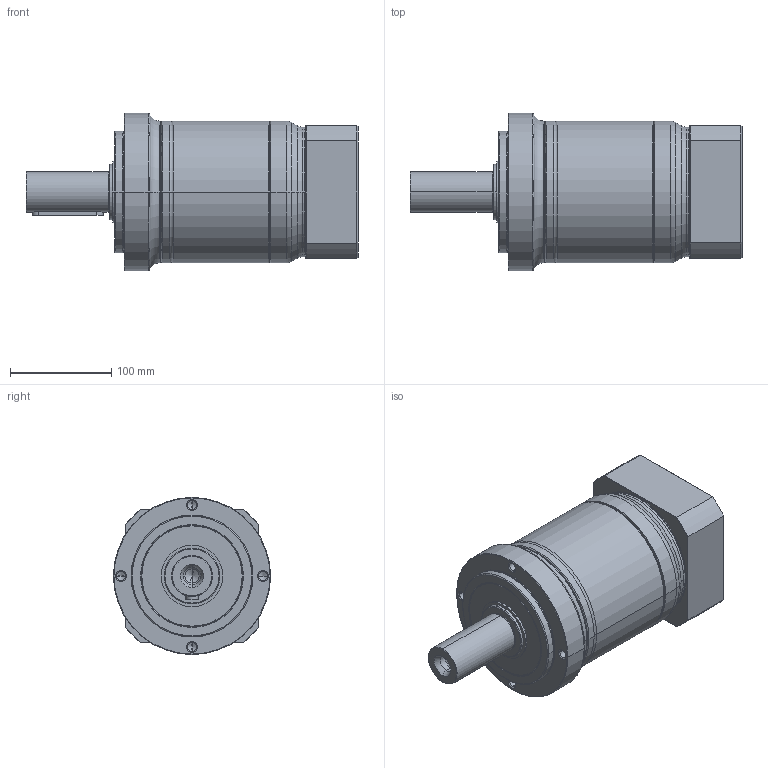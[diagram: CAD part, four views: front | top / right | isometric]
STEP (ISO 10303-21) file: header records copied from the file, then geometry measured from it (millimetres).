
FILE_DESCRIPTION((''),'2;1');
FILE_NAME('PE2-155_2ST_35-P0411800101_ASM','2017-06-05T',('d01943'),(''),'PRO/ENGINEER BY PARAMETRIC TECHNOLOGY CORPORATION, 2008410','PRO/ENGINEER BY PARAMETRIC TECHNOLOGY CORPORATION, 2008410','');
FILE_SCHEMA(('CONFIG_CONTROL_DESIGN'));
Length unit declared in the file: millimetre
Products named in the file (9): P1323510001; P0251500001; P1324500401; P0350501001; P0941504001; P0503800010; P0411800101; P1702600001; PE2-155_2ST_35-P0411800101_ASM
Assembly tree (8 placements, depth 2):
  PE2-155_2ST_35-P0411800101_ASM
    P1323510001
    P0251500001
    P1324500401
    P0350501001
    P0941504001
    P0503800010
    P0411800101
    P1702600001
Bounding box: 327.5 x 155 x 155 mm (x, y, z)
Volume: 2535388.4 mm3; surface area: 380096.5 mm2
Topology: 8 solids, 8 shells, 479 faces, 1047 edges, 598 vertices
Faces by surface type: cone 142, cylinder 142, torus 102, plane 77, bspline 16
Entity records: 17688 total; most frequent: CARTESIAN_POINT 6962, DIRECTION 2451, ORIENTED_EDGE 2030, AXIS2_PLACEMENT_3D 1053, EDGE_CURVE 1015, VERTEX_POINT 598, CIRCLE 573, EDGE_LOOP 541
